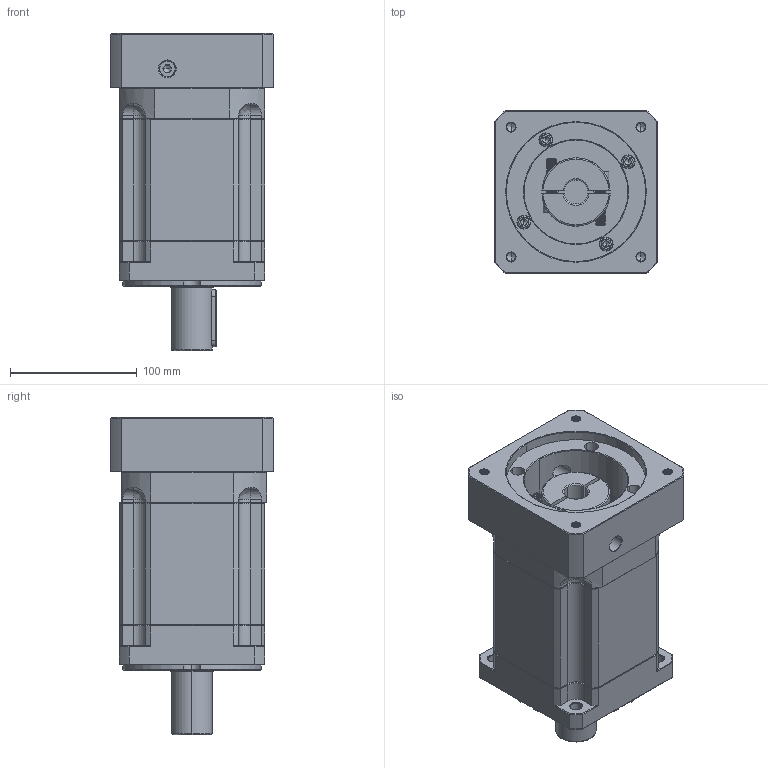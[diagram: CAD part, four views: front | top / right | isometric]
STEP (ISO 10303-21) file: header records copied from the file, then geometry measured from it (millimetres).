
FILE_DESCRIPTION (( 'STEP AP214' ), '1' );
FILE_NAME ('ZB115A-D32-L3-P2-19-110-145-M8.step', '2023-08-26T06:31:45', ( '' ), ( '' ), 'SwSTEP 2.0', 'SolidWorks 2016', '' );
FILE_SCHEMA (( 'AUTOMOTIVE_DESIGN' ));
Length unit declared in the file: millimetre
Products named in the file (1): ZB115A-D32-L3-P2-19-110-145-M8
Bounding box: 128 x 128 x 250.5 mm (x, y, z)
Volume: 2288686.2 mm3; surface area: 203609 mm2
Topology: 6 solids, 6 shells, 2392 faces, 6283 edges, 3990 vertices
Faces by surface type: plane 1143, cylinder 439, bspline 423, cone 367, torus 20
Entity records: 129335 total; most frequent: CARTESIAN_POINT 47641, ORIENTED_EDGE 12498, DIRECTION 9889, EDGE_CURVE 6249, VECTOR 3995, LINE 3995, VERTEX_POINT 3990, AXIS2_PLACEMENT_3D 2947
